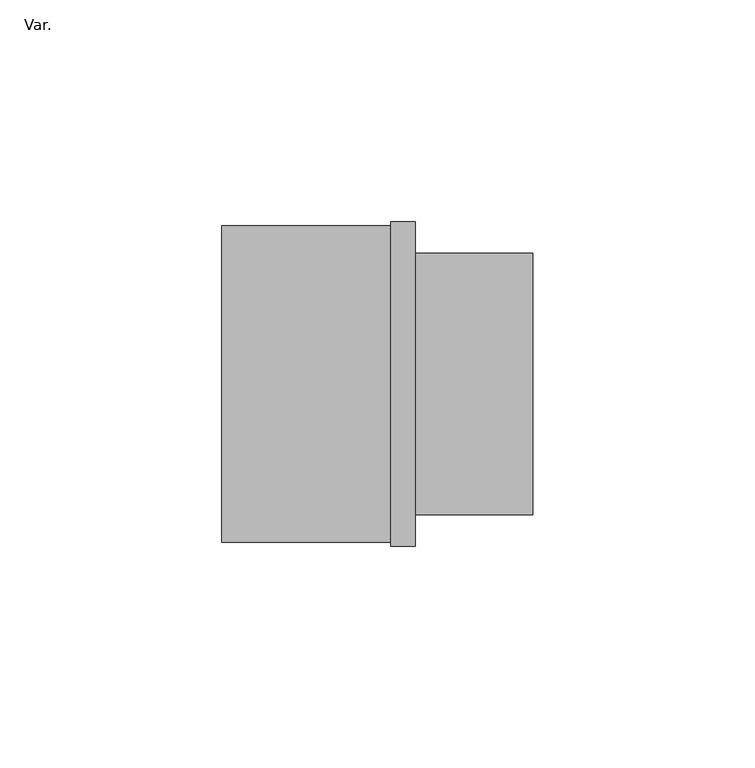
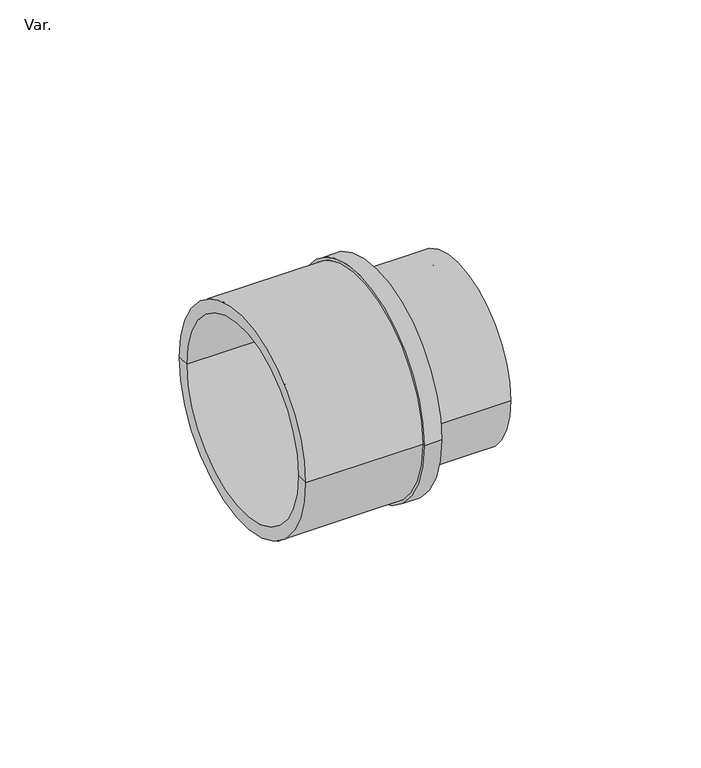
"""IFC4 building model written with IfcOpenShell, lengths in millimetres: pipe fitting geometry, PlastigamaWavin_Unionesdetubería_PresiónPVCAdaptadorMR : Var.."""

from ifc_helpers import new_model, si_unit, frame, origin, place, context, project, spatial, polyline, circle_curve, source, transform, mapped, element, save
from ifc_brep_helpers import plane_surface, cylinder_surface, revolved_surface, advanced_brep


def var_57b3b193(model_context):
    return source(origin(), model_context, "Body", "AdvancedBrep", [
        advanced_brep(
        [(0.0, -24.45, 0.0), (0.0, 24.45, 0.0), (0.0, 31.525, 0.0), (0.0, -31.525, 0.0), (32.0, -24.45, 0.0), (32.0, 24.45, 0.0), (5.6, -29.45, 0.0), (5.6, 29.45, 0.0), (32.0, 29.45, 0.0), (32.0, -29.45, 0.0), (5.6, -36.5, 0.0), (5.6, 36.5, 0.0), (0.0, -36.5, 0.0), (0.0, 36.5, 0.0), (0.0, -35.6, 0.0), (0.0, 35.6, 0.0), (-38.0, -35.6, 0.0), (-38.0, 35.6, 0.0), (-38.0, -31.525, 0.0), (-38.0, 31.525, 0.0)],
        [
            (0, 1, circle_curve(frame((0.0, 0.0, 0.0), z_axis=(1.0, 0.0, 0.0), x_axis=(0.0, 1.0, 0.0)), 24.45)),
            (1, 2),
            (2, 3, circle_curve(frame((0.0, 0.0, 0.0), z_axis=(-1.0, 0.0, 0.0), x_axis=(0.0, 1.0, 0.0)), 31.525)),
            (3, 0),
            (1, 0, circle_curve(frame((0.0, 0.0, 0.0), z_axis=(1.0, 0.0, 0.0), x_axis=(0.0, 1.0, 0.0)), 24.45)),
            (3, 2, circle_curve(frame((0.0, 0.0, 0.0), z_axis=(-1.0, 0.0, 0.0), x_axis=(0.0, 1.0, 0.0)), 31.525)),
            (4, 5, circle_curve(frame((32.0, 0.0, 0.0), z_axis=(1.0, 0.0, 0.0), x_axis=(0.0, 1.0, 0.0)), 24.45)),
            (5, 1),
            (0, 4),
            (5, 4, circle_curve(frame((32.0, 0.0, 0.0), z_axis=(1.0, 0.0, 0.0), x_axis=(0.0, 1.0, 0.0)), 24.45)),
            (6, 7, circle_curve(frame((5.6, 0.0, 0.0), z_axis=(1.0, 0.0, 0.0), x_axis=(0.0, 1.0, 0.0)), 29.45)),
            (7, 8),
            (8, 9, circle_curve(frame((32.0, 0.0, 0.0), z_axis=(-1.0, 0.0, 0.0), x_axis=(0.0, 1.0, 0.0)), 29.45)),
            (9, 6),
            (7, 6, circle_curve(frame((5.6, 0.0, 0.0), z_axis=(1.0, 0.0, 0.0), x_axis=(0.0, 1.0, 0.0)), 29.45)),
            (9, 8, circle_curve(frame((32.0, 0.0, 0.0), z_axis=(-1.0, 0.0, 0.0), x_axis=(0.0, 1.0, 0.0)), 29.45)),
            (10, 11, circle_curve(frame((5.6, 0.0, 0.0), z_axis=(1.0, 0.0, 0.0), x_axis=(0.0, 1.0, 0.0)), 36.5)),
            (11, 7),
            (6, 10),
            (11, 10, circle_curve(frame((5.6, 0.0, 0.0), z_axis=(1.0, 0.0, 0.0), x_axis=(0.0, 1.0, 0.0)), 36.5)),
            (12, 13, circle_curve(frame((0.0, 0.0, 0.0), z_axis=(1.0, 0.0, 0.0), x_axis=(0.0, 1.0, 0.0)), 36.5)),
            (13, 11),
            (10, 12),
            (13, 12, circle_curve(frame((0.0, 0.0, 0.0), z_axis=(1.0, 0.0, 0.0), x_axis=(0.0, 1.0, 0.0)), 36.5)),
            (14, 15, circle_curve(frame((0.0, 0.0, 0.0), z_axis=(1.0, 0.0, 0.0), x_axis=(0.0, 1.0, 0.0)), 35.6)),
            (15, 13),
            (12, 14),
            (15, 14, circle_curve(frame((0.0, 0.0, 0.0), z_axis=(1.0, 0.0, 0.0), x_axis=(0.0, 1.0, 0.0)), 35.6)),
            (16, 17, circle_curve(frame((-38.0, 0.0, 0.0), z_axis=(1.0, 0.0, 0.0), x_axis=(0.0, 1.0, 0.0)), 35.6)),
            (17, 15),
            (14, 16),
            (17, 16, circle_curve(frame((-38.0, 0.0, 0.0), z_axis=(1.0, 0.0, 0.0), x_axis=(0.0, 1.0, 0.0)), 35.6)),
            (18, 19, circle_curve(frame((-38.0, 0.0, 0.0), z_axis=(1.0, 0.0, 0.0), x_axis=(0.0, 1.0, 0.0)), 31.525)),
            (19, 17),
            (16, 18),
            (19, 18, circle_curve(frame((-38.0, 0.0, 0.0), z_axis=(1.0, 0.0, 0.0), x_axis=(0.0, 1.0, 0.0)), 31.525)),
            (2, 19),
            (18, 3),
            (8, 5),
            (4, 9),
        ],
        [
            plane_surface(frame((0.0, 0.0, 0.0), z_axis=(-1.0, 0.0, 0.0), x_axis=(0.0, 1.0, 0.0))),
            revolved_surface(polyline([(0.0, 24.45, 0.0), (32.0, 24.45, 0.0)]), (2017.5, 0.0, 0.0), (-1.0, 0.0, 0.0)),
            cylinder_surface(frame((2017.5, 0.0, 0.0), z_axis=(-1.0, 0.0, 0.0), x_axis=(0.0, 1.0, 0.0)), 29.45),
            plane_surface(frame((5.6, 0.0, 0.0), z_axis=(1.0, 0.0, 0.0), x_axis=(0.0, 1.0, 0.0))),
            cylinder_surface(frame((2017.5, 0.0, 0.0), z_axis=(-1.0, 0.0, 0.0), x_axis=(0.0, 1.0, 0.0)), 36.5),
            cylinder_surface(frame((2017.5, 0.0, 0.0), z_axis=(-1.0, 0.0, 0.0), x_axis=(0.0, 1.0, 0.0)), 35.6),
            plane_surface(frame((-38.0, 0.0, 0.0), z_axis=(-1.0, 0.0, 0.0), x_axis=(0.0, 1.0, 0.0))),
            revolved_surface(polyline([(-38.0, 31.525, 0.0), (0.0, 31.525, 0.0)]), (2017.5, 0.0, 0.0), (-1.0, 0.0, 0.0)),
            plane_surface(frame((32.0, 0.0, 0.0), z_axis=(1.0, 0.0, 0.0), x_axis=(0.0, 1.0, 0.0))),
        ],
        [
            (0, [[1, 2, 3, 4]]),
            (0, [[5, -4, 6, -2]]),
            (1, [[7, 8, -1, 9]]),
            (1, [[10, -9, -5, -8]]),
            (2, [[11, 12, 13, 14]]),
            (2, [[15, -14, 16, -12]]),
            (3, [[17, 18, -11, 19]]),
            (3, [[20, -19, -15, -18]]),
            (4, [[21, 22, -17, 23]]),
            (4, [[24, -23, -20, -22]]),
            (0, [[25, 26, -21, 27]]),
            (0, [[28, -27, -24, -26]]),
            (5, [[29, 30, -25, 31]]),
            (5, [[32, -31, -28, -30]]),
            (6, [[33, 34, -29, 35]]),
            (6, [[36, -35, -32, -34]]),
            (7, [[-3, 37, -33, 38]]),
            (7, [[-6, -38, -36, -37]]),
            (8, [[-13, 39, -7, 40]]),
            (8, [[-16, -40, -10, -39]]),
        ],
    ),
    ])


if __name__ == "__main__":
    model = new_model("IFC4")
    model_context = context("Model", 3, world=origin())
    ifc_project = project(units=[si_unit("LENGTHUNIT", "METRE", prefix="MILLI")], contexts=[model_context])
    site = spatial("IfcSite", under=ifc_project)
    building = spatial("IfcBuilding", under=site)
    placement = place(None, origin())
    var_shape = var_57b3b193(model_context)
    element("IfcPipeFitting", 1, ObjectType="PlastigamaWavin_Unionesdetubería_PresiónPVCAdaptadorMR : Var.", at=placement, inside=building, context=model_context, shape_type="MappedRepresentation", body=[
        mapped(var_shape, transform((0.0, 0.0, 0.0), x_axis=(1.0, 0.0, 0.0), y_axis=(0.0, 1.0, 0.0), z_axis=(0.0, 0.0, 1.0))),
    ])
    save(model, "model.ifc")
